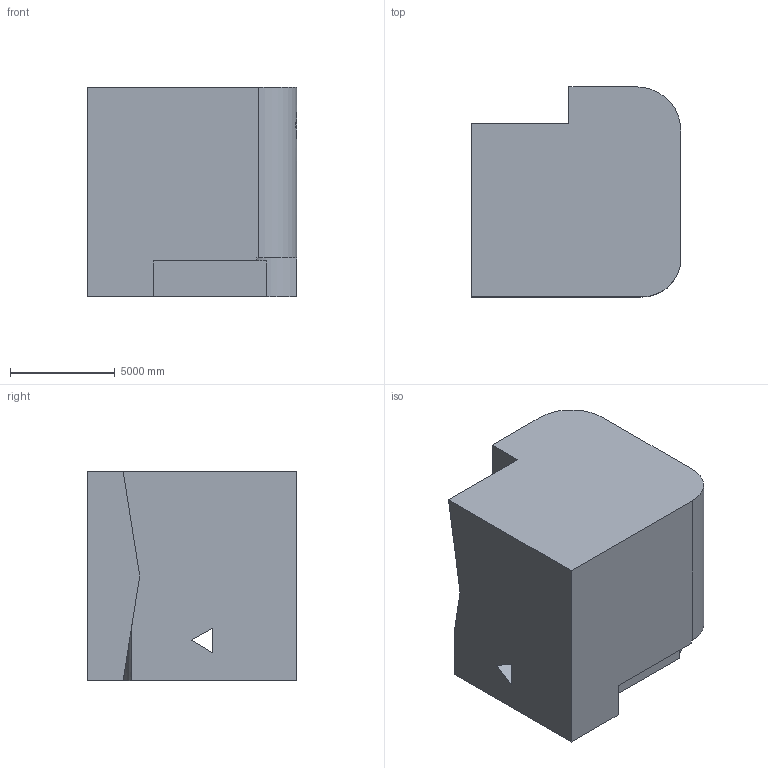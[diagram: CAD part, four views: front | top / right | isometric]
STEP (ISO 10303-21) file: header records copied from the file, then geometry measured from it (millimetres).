
FILE_DESCRIPTION (( 'STEP AP203' ), '1' );
FILE_NAME ('879.STEP', '2022-07-29T13:56:44', ( 'user' ), ( '' ), 'SwSTEP 2.0', 'SolidWorks 2021', '' );
FILE_SCHEMA (( 'CONFIG_CONTROL_DESIGN' ));
Length unit declared in the file: centimetre
Products named in the file (1): 879
Bounding box: 10000 x 10000 x 10000 mm (x, y, z)
Volume: 840082276806.2 mm3; surface area: 643186761.7 mm2
Topology: 1 solids, 1 shells, 28 faces, 78 edges, 52 vertices
Faces by surface type: plane 20, cylinder 8
Entity records: 1062 total; most frequent: CARTESIAN_POINT 254, ORIENTED_EDGE 156, DIRECTION 147, EDGE_CURVE 78, VECTOR 59, LINE 59, VERTEX_POINT 52, AXIS2_PLACEMENT_3D 44
